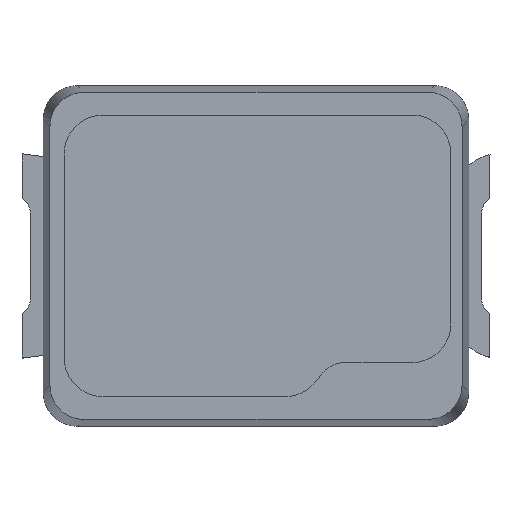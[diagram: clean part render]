
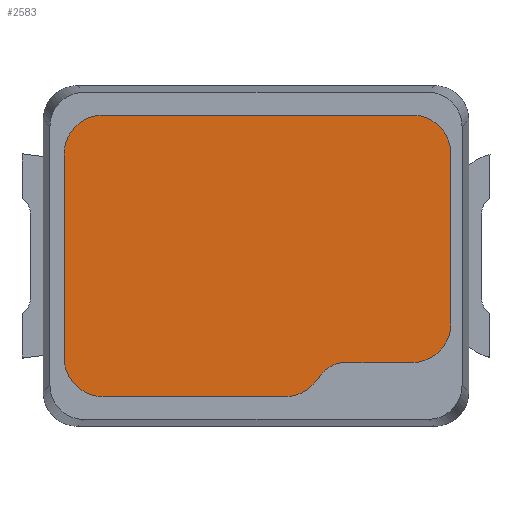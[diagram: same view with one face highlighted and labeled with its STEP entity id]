
A CAD part, top view. The second image highlights one B-rep face of the part: STEP entity #2583.
In plain terms, the highlighted planar face has unit normal (0, 0, 1).
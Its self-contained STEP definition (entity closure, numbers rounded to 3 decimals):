
#2 = PLANE ( 'NONE',  #791 ) ;
#229 = CARTESIAN_POINT ( 'NONE',  ( 0.914, -0.627, 0.45 ) ) ;
#444 = ORIENTED_EDGE ( 'NONE', *, *, #3939, .T. ) ;
#505 = ORIENTED_EDGE ( 'NONE', *, *, #716, .T. ) ;
#551 = CARTESIAN_POINT ( 'NONE',  ( 1.145, 0.601, 0.45 ) ) ;
#607 = CARTESIAN_POINT ( 'NONE',  ( 0.471, -0.627, 0.45 ) ) ;
#660 = CARTESIAN_POINT ( 'NONE',  ( 0.299, -0.798, 0.45 ) ) ;
#677 = DIRECTION ( 'NONE',  ( 1., 0., 0. ) ) ;
#716 = EDGE_CURVE ( 'NONE', #1833, #5066, #5543, .T. ) ;
#726 = VERTEX_POINT ( 'NONE', #1721 ) ;
#760 = CARTESIAN_POINT ( 'NONE',  ( 0.522, -0.627, 0.45 ) ) ;
#791 = AXIS2_PLACEMENT_3D ( 'NONE', #5449, #3056, #3486 ) ;
#851 = CARTESIAN_POINT ( 'NONE',  ( 1.05, 0.827, 0.45 ) ) ;
#927 = CARTESIAN_POINT ( 'NONE',  ( 0.392, -0.688, 0.45 ) ) ;
#997 = VERTEX_POINT ( 'NONE', #2294 ) ;
#1173 = CARTESIAN_POINT ( 'NONE',  ( 0.522, -0.627, 0.45 ) ) ;
#1179 = CARTESIAN_POINT ( 'NONE',  ( -1.127, 0.733, 0.45 ) ) ;
#1224 = ORIENTED_EDGE ( 'NONE', *, *, #4038, .T. ) ;
#1281 = VECTOR ( 'NONE', #4303, 1000. ) ;
#1448 = CARTESIAN_POINT ( 'NONE',  ( 0.392, -0.688, 0.45 ) ) ;
#1525 = EDGE_CURVE ( 'NONE', #1781, #726, #6064, .T. ) ;
#1608 = CARTESIAN_POINT ( 'NONE',  ( 1.145, 0.601, 0.45 ) ) ;
#1653 = CARTESIAN_POINT ( 'NONE',  ( -1.033, 0.827, 0.45 ) ) ;
#1693 = CARTESIAN_POINT ( 'NONE',  ( 0.168, -0.827, 0.45 ) ) ;
#1721 = CARTESIAN_POINT ( 'NONE',  ( -1.127, 0.598, 0.45 ) ) ;
#1752 = ORIENTED_EDGE ( 'NONE', *, *, #6116, .T. ) ;
#1781 = VERTEX_POINT ( 'NONE', #2017 ) ;
#1833 = VERTEX_POINT ( 'NONE', #5379 ) ;
#2017 = CARTESIAN_POINT ( 'NONE',  ( -0.898, 0.827, 0.45 ) ) ;
#2067 = CARTESIAN_POINT ( 'NONE',  ( 1.145, 0.734, 0.45 ) ) ;
#2116 = VERTEX_POINT ( 'NONE', #5723 ) ;
#2226 = DIRECTION ( 'NONE',  ( 0., -1., 0. ) ) ;
#2247 = CARTESIAN_POINT ( 'NONE',  ( -0.898, 0.827, 0.45 ) ) ;
#2294 = CARTESIAN_POINT ( 'NONE',  ( 0.344, -0.746, 0.45 ) ) ;
#2373 =( BOUNDED_CURVE ( )  B_SPLINE_CURVE ( 3, ( #3070, #2701, #4643, #3685 ),
 .UNSPECIFIED., .F., .F. ) 
 B_SPLINE_CURVE_WITH_KNOTS ( ( 4, 4 ),
 ( 1.992, 3.545 ),
 .UNSPECIFIED. ) 
 CURVE ( )  GEOMETRIC_REPRESENTATION_ITEM ( )  RATIONAL_B_SPLINE_CURVE ( ( 1., 0.809, 0.809, 1. ) ) 
 REPRESENTATION_ITEM ( '' )  );
#2387 = EDGE_CURVE ( 'NONE', #3891, #2565, #5210, .T. ) ;
#2435 = EDGE_CURVE ( 'NONE', #3802, #5708, #2373, .T. ) ;
#2447 = ORIENTED_EDGE ( 'NONE', *, *, #3446, .T. ) ;
#2468 = CARTESIAN_POINT ( 'NONE',  ( -1.127, -0.733, 0.45 ) ) ;
#2565 = VERTEX_POINT ( 'NONE', #3845 ) ;
#2583 = ADVANCED_FACE ( 'NONE', ( #5779 ), #2, .T. ) ;
#2596 = CARTESIAN_POINT ( 'NONE',  ( -0.898, -0.827, 0.45 ) ) ;
#2693 = CARTESIAN_POINT ( 'NONE',  ( 0.168, -0.827, 0.45 ) ) ;
#2701 = CARTESIAN_POINT ( 'NONE',  ( 1.05, -0.627, 0.45 ) ) ;
#2716 = CARTESIAN_POINT ( 'NONE',  ( 0.237, -0.827, 0.45 ) ) ;
#2770 = LINE ( 'NONE', #5613, #5544 ) ;
#2778 = DIRECTION ( 'NONE',  ( -1., 0., 0. ) ) ;
#2886 = CARTESIAN_POINT ( 'NONE',  ( 1.145, -0.401, 0.45 ) ) ;
#2958 = ORIENTED_EDGE ( 'NONE', *, *, #5842, .T. ) ;
#3056 = DIRECTION ( 'NONE',  ( 0., 0., 1. ) ) ;
#3070 = CARTESIAN_POINT ( 'NONE',  ( 0.914, -0.627, 0.45 ) ) ;
#3075 = ORIENTED_EDGE ( 'NONE', *, *, #5274, .T. ) ;
#3162 = ORIENTED_EDGE ( 'NONE', *, *, #2387, .T. ) ;
#3179 = ORIENTED_EDGE ( 'NONE', *, *, #2435, .T. ) ;
#3446 = EDGE_CURVE ( 'NONE', #5066, #997, #3500, .T. ) ;
#3450 = VECTOR ( 'NONE', #4322, 1000. ) ;
#3461 =( BOUNDED_CURVE ( )  B_SPLINE_CURVE ( 3, ( #1448, #4902, #607, #1173 ),
 .UNSPECIFIED., .F., .F. ) 
 B_SPLINE_CURVE_WITH_KNOTS ( ( 4, 4 ),
 ( 2.707, 3.576 ),
 .UNSPECIFIED. ) 
 CURVE ( )  GEOMETRIC_REPRESENTATION_ITEM ( )  RATIONAL_B_SPLINE_CURVE ( ( 1., 0.938, 0.938, 1. ) ) 
 REPRESENTATION_ITEM ( '' )  );
#3467 = VERTEX_POINT ( 'NONE', #760 ) ;
#3486 = DIRECTION ( 'NONE',  ( 1., 0., 0. ) ) ;
#3500 =( BOUNDED_CURVE ( )  B_SPLINE_CURVE ( 3, ( #3632, #2716, #660, #5090 ),
 .UNSPECIFIED., .F., .F. ) 
 B_SPLINE_CURVE_WITH_KNOTS ( ( 4, 4 ),
 ( 2.707, 3.576 ),
 .UNSPECIFIED. ) 
 CURVE ( )  GEOMETRIC_REPRESENTATION_ITEM ( )  RATIONAL_B_SPLINE_CURVE ( ( 1., 0.938, 0.938, 1. ) ) 
 REPRESENTATION_ITEM ( '' )  );
#3632 = CARTESIAN_POINT ( 'NONE',  ( 0.168, -0.827, 0.45 ) ) ;
#3685 = CARTESIAN_POINT ( 'NONE',  ( 1.145, -0.401, 0.45 ) ) ;
#3802 = VERTEX_POINT ( 'NONE', #229 ) ;
#3845 = CARTESIAN_POINT ( 'NONE',  ( 0.914, 0.827, 0.45 ) ) ;
#3891 = VERTEX_POINT ( 'NONE', #6068 ) ;
#3939 = EDGE_CURVE ( 'NONE', #726, #5827, #2770, .T. ) ;
#4038 = EDGE_CURVE ( 'NONE', #2116, #3467, #3461, .T. ) ;
#4303 = DIRECTION ( 'NONE',  ( 0.643, 0.766, 0. ) ) ;
#4322 = DIRECTION ( 'NONE',  ( 0., 1., 0. ) ) ;
#4494 = EDGE_LOOP ( 'NONE', ( #2958, #505, #2447, #1752, #1224, #5769, #3179, #3075, #3162, #5081, #4893, #444 ) ) ;
#4517 = CARTESIAN_POINT ( 'NONE',  ( 0.914, 0.827, 0.45 ) ) ;
#4643 = CARTESIAN_POINT ( 'NONE',  ( 1.145, -0.534, 0.45 ) ) ;
#4653 = EDGE_CURVE ( 'NONE', #2565, #1781, #5693, .T. ) ;
#4785 = CARTESIAN_POINT ( 'NONE',  ( -0.898, 0.827, 0.45 ) ) ;
#4855 = CARTESIAN_POINT ( 'NONE',  ( -1.127, -0.598, 0.45 ) ) ;
#4893 = ORIENTED_EDGE ( 'NONE', *, *, #1525, .T. ) ;
#4902 = CARTESIAN_POINT ( 'NONE',  ( 0.425, -0.649, 0.45 ) ) ;
#4971 = CARTESIAN_POINT ( 'NONE',  ( -1.033, -0.827, 0.45 ) ) ;
#5066 = VERTEX_POINT ( 'NONE', #1693 ) ;
#5081 = ORIENTED_EDGE ( 'NONE', *, *, #4653, .T. ) ;
#5090 = CARTESIAN_POINT ( 'NONE',  ( 0.344, -0.746, 0.45 ) ) ;
#5145 = VECTOR ( 'NONE', #677, 1000. ) ;
#5210 =( BOUNDED_CURVE ( )  B_SPLINE_CURVE ( 3, ( #1608, #2067, #851, #4517 ),
 .UNSPECIFIED., .F., .F. ) 
 B_SPLINE_CURVE_WITH_KNOTS ( ( 4, 4 ),
 ( 2.738, 4.291 ),
 .UNSPECIFIED. ) 
 CURVE ( )  GEOMETRIC_REPRESENTATION_ITEM ( )  RATIONAL_B_SPLINE_CURVE ( ( 1., 0.809, 0.809, 1. ) ) 
 REPRESENTATION_ITEM ( '' )  );
#5217 = VECTOR ( 'NONE', #5672, 1000. ) ;
#5274 = EDGE_CURVE ( 'NONE', #5708, #3891, #5303, .T. ) ;
#5303 = LINE ( 'NONE', #551, #3450 ) ;
#5358 = CARTESIAN_POINT ( 'NONE',  ( -1.127, -0.598, 0.45 ) ) ;
#5379 = CARTESIAN_POINT ( 'NONE',  ( -0.898, -0.827, 0.45 ) ) ;
#5399 =( BOUNDED_CURVE ( )  B_SPLINE_CURVE ( 3, ( #5358, #2468, #4971, #2596 ),
 .UNSPECIFIED., .F., .T. ) 
 B_SPLINE_CURVE_WITH_KNOTS ( ( 4, 4 ),
 ( 2.36, 3.923 ),
 .UNSPECIFIED. ) 
 CURVE ( )  GEOMETRIC_REPRESENTATION_ITEM ( )  RATIONAL_B_SPLINE_CURVE ( ( 1., 0.807, 0.807, 1. ) ) 
 REPRESENTATION_ITEM ( '' )  );
#5449 = CARTESIAN_POINT ( 'NONE',  ( -0.897, -0.597, 0.45 ) ) ;
#5543 = LINE ( 'NONE', #2693, #5145 ) ;
#5544 = VECTOR ( 'NONE', #2226, 1000. ) ;
#5570 = CARTESIAN_POINT ( 'NONE',  ( 0.914, -0.627, 0.45 ) ) ;
#5613 = CARTESIAN_POINT ( 'NONE',  ( -1.127, -0.598, 0.45 ) ) ;
#5672 = DIRECTION ( 'NONE',  ( 1., 0., 0. ) ) ;
#5693 = LINE ( 'NONE', #4785, #5972 ) ;
#5701 = LINE ( 'NONE', #927, #1281 ) ;
#5708 = VERTEX_POINT ( 'NONE', #2886 ) ;
#5723 = CARTESIAN_POINT ( 'NONE',  ( 0.392, -0.688, 0.45 ) ) ;
#5769 = ORIENTED_EDGE ( 'NONE', *, *, #6037, .T. ) ;
#5779 = FACE_OUTER_BOUND ( 'NONE', #4494, .T. ) ;
#5827 = VERTEX_POINT ( 'NONE', #4855 ) ;
#5842 = EDGE_CURVE ( 'NONE', #5827, #1833, #5399, .T. ) ;
#5972 = VECTOR ( 'NONE', #2778, 1000. ) ;
#6022 = CARTESIAN_POINT ( 'NONE',  ( -1.127, 0.598, 0.45 ) ) ;
#6037 = EDGE_CURVE ( 'NONE', #3467, #3802, #6143, .T. ) ;
#6064 =( BOUNDED_CURVE ( )  B_SPLINE_CURVE ( 3, ( #2247, #1653, #1179, #6022 ),
 .UNSPECIFIED., .F., .F. ) 
 B_SPLINE_CURVE_WITH_KNOTS ( ( 4, 4 ),
 ( 2.36, 3.923 ),
 .UNSPECIFIED. ) 
 CURVE ( )  GEOMETRIC_REPRESENTATION_ITEM ( )  RATIONAL_B_SPLINE_CURVE ( ( 1., 0.807, 0.807, 1. ) ) 
 REPRESENTATION_ITEM ( '' )  );
#6068 = CARTESIAN_POINT ( 'NONE',  ( 1.145, 0.601, 0.45 ) ) ;
#6116 = EDGE_CURVE ( 'NONE', #997, #2116, #5701, .T. ) ;
#6143 = LINE ( 'NONE', #5570, #5217 ) ;
